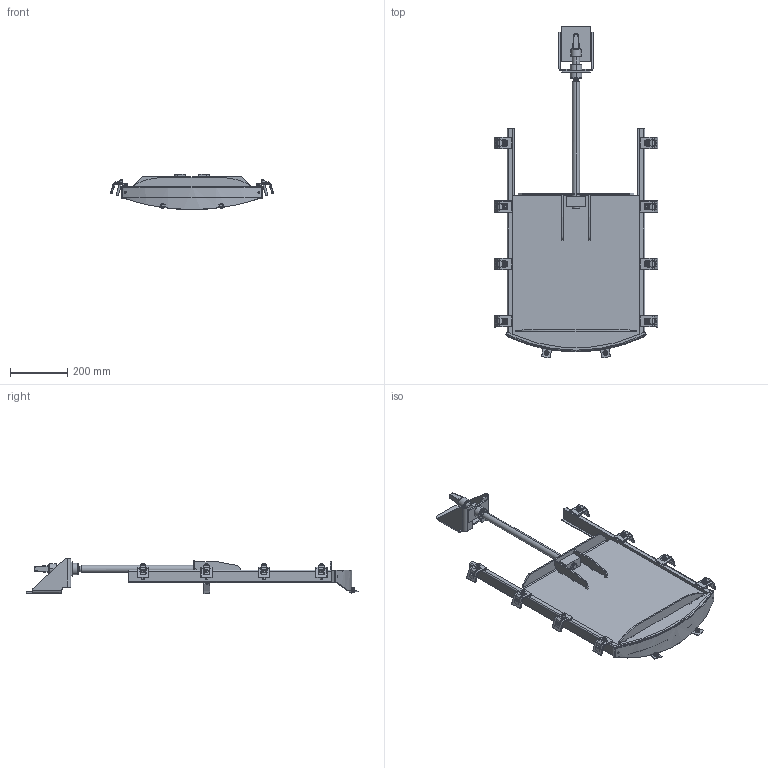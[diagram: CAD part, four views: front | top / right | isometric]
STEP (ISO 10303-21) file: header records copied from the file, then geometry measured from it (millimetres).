
FILE_DESCRIPTION (( 'STEP AP214' ), '1' );
FILE_NAME ('LW 400 Schacht1500 geschr..STEP', '2022-05-20T09:31:05', ( '' ), ( '' ), 'SwSTEP 2.0', 'SolidWorks 2021', '' );
FILE_SCHEMA (( 'AUTOMOTIVE_DESIGN' ));
Length unit declared in the file: millimetre
Products named in the file (1): LW 400 Schacht1500 geschr.
Bounding box: 569.33 x 1158.15 x 122.1 mm (x, y, z)
Volume: 3940676.9 mm3; surface area: 1193711.7 mm2
Topology: 1 solids, 11 shells, 1445 faces, 3432 edges, 1946 vertices
Faces by surface type: cylinder 568, plane 426, cone 146, sphere 112, torus 104, bspline 89
Entity records: 61119 total; most frequent: CARTESIAN_POINT 13161, DIRECTION 6872, ORIENTED_EDGE 6632, EDGE_CURVE 3316, AXIS2_PLACEMENT_3D 2721, VERTEX_POINT 1930, EDGE_LOOP 1556, UNCERTAINTY_MEASURE_WITH_UNIT 1448
